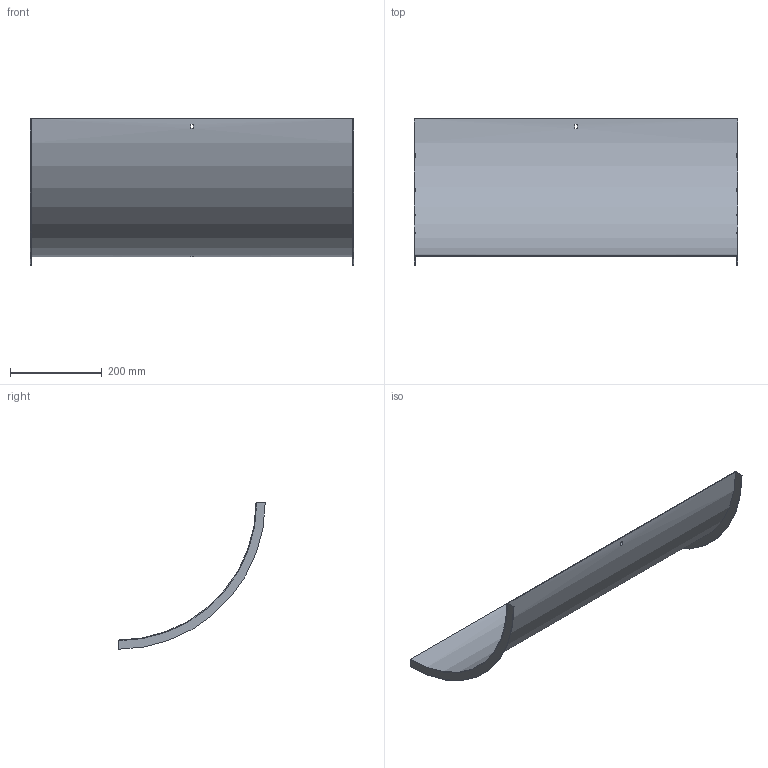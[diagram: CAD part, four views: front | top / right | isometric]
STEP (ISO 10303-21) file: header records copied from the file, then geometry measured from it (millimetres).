
FILE_DESCRIPTION (( 'STEP AP214' ), '1' );
FILE_NAME ('B2X30N3R700X.step', '2025-03-20T09:47:12', ( '' ), ( '' ), 'SwSTEP 2.0', 'SolidWorks 2023', '' );
FILE_SCHEMA (( 'AUTOMOTIVE_DESIGN' ));
Length unit declared in the file: millimetre
Products named in the file (1): B2X30N3R700X
Bounding box: 703 x 318.5 x 318.5 mm (x, y, z)
Volume: 522463.5 mm3; surface area: 700428.5 mm2
Topology: 1 solids, 1 shells, 18 faces, 48 edges, 32 vertices
Faces by surface type: plane 14, cylinder 4
Entity records: 599 total; most frequent: DIRECTION 102, CARTESIAN_POINT 99, ORIENTED_EDGE 96, EDGE_CURVE 48, AXIS2_PLACEMENT_3D 35, LINE 32, VERTEX_POINT 32, VECTOR 32
